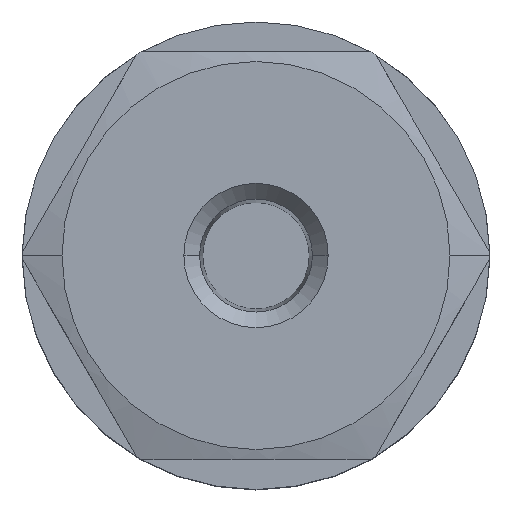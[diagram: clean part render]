
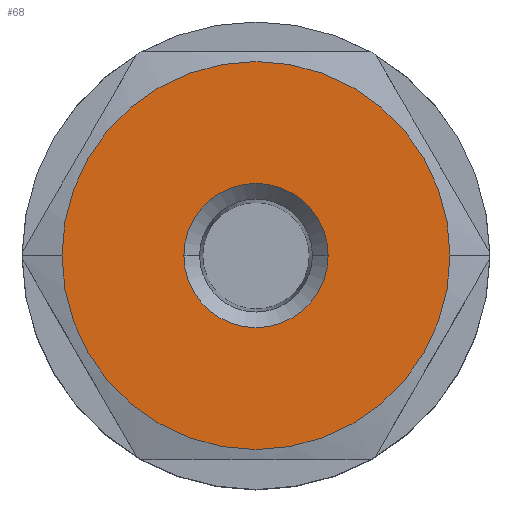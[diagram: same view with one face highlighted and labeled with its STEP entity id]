
A CAD part, top view. The second image highlights one B-rep face of the part: STEP entity #68.
In plain terms, the highlighted planar face has unit normal (0, 0, 1).
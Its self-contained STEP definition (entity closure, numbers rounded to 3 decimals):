
#68=ADVANCED_FACE('',(#386,#387),#385,.F.);
#385=PLANE('',#885);
#386=FACE_OUTER_BOUND('',#886,.T.);
#387=FACE_BOUND('',#887,.T.);
#882=CARTESIAN_POINT('',(44.85,-40.53,55.));
#883=DIRECTION('',(0.,0.,-1.));
#884=DIRECTION('',(-1.,0.,0.));
#885=AXIS2_PLACEMENT_3D('',#882,#883,#884);
#886=EDGE_LOOP('',(#1272,#1273));
#887=EDGE_LOOP('',(#1274,#1275));
#1272=ORIENTED_EDGE('',*,*,#1556,.F.);
#1273=ORIENTED_EDGE('',*,*,#1557,.F.);
#1274=ORIENTED_EDGE('',*,*,#1558,.T.);
#1275=ORIENTED_EDGE('',*,*,#1559,.T.);
#1556=EDGE_CURVE('',#2124,#2125,#2126,.T.);
#1557=EDGE_CURVE('',#2125,#2124,#2132,.T.);
#1558=EDGE_CURVE('',#2138,#2139,#2140,.T.);
#1559=EDGE_CURVE('',#2139,#2138,#2146,.T.);
#2124=VERTEX_POINT('',#2990);
#2125=VERTEX_POINT('',#2991);
#2126=CIRCLE('',#2995,19.5);
#2132=CIRCLE('',#2999,19.5);
#2138=VERTEX_POINT('',#3000);
#2139=VERTEX_POINT('',#3001);
#2140=CIRCLE('',#3005,7.25);
#2146=CIRCLE('',#3009,7.25);
#2990=CARTESIAN_POINT('',(19.5,0.,55.));
#2991=CARTESIAN_POINT('',(-19.5,0.,55.));
#2992=CARTESIAN_POINT('',(0.,0.,55.));
#2993=DIRECTION('',(0.,0.,-1.));
#2994=DIRECTION('',(-1.,0.,0.));
#2995=AXIS2_PLACEMENT_3D('',#2992,#2993,#2994);
#2996=CARTESIAN_POINT('',(0.,0.,55.));
#2997=DIRECTION('',(0.,0.,-1.));
#2998=DIRECTION('',(-1.,0.,0.));
#2999=AXIS2_PLACEMENT_3D('',#2996,#2997,#2998);
#3000=CARTESIAN_POINT('',(-7.25,0.,55.));
#3001=CARTESIAN_POINT('',(7.25,0.,55.));
#3002=CARTESIAN_POINT('',(0.,0.,55.));
#3003=DIRECTION('',(0.,0.,-1.));
#3004=DIRECTION('',(-1.,0.,0.));
#3005=AXIS2_PLACEMENT_3D('',#3002,#3003,#3004);
#3006=CARTESIAN_POINT('',(0.,0.,55.));
#3007=DIRECTION('',(0.,0.,-1.));
#3008=DIRECTION('',(-1.,0.,0.));
#3009=AXIS2_PLACEMENT_3D('',#3006,#3007,#3008);
